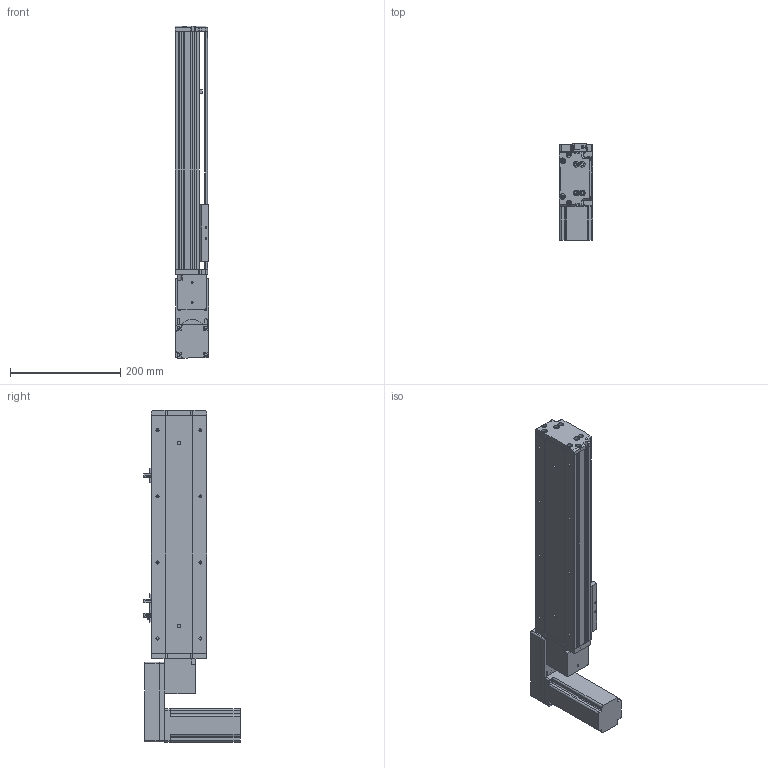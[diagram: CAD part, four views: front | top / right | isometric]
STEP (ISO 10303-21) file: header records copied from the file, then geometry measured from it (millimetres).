
FILE_DESCRIPTION (( 'STEP AP214' ), '1' );
FILE_NAME ('KSD100B-S250-MLB-CM.STEP', '2019-11-04T07:32:08', ( '微软用户' ), ( '微软中国' ), 'SwSTEP 2.0', 'SolidWorks 2014', '' );
FILE_SCHEMA (( 'AUTOMOTIVE_DESIGN' ));
Length unit declared in the file: millimetre
Products named in the file (12): 悵誘欶奻狟殏; 100宽马达安装板连板上下折丝杆同步带; 台达ECMA－C20604AS伺服电机; U倰嫖萇EEㄜSX672; 覜茼え100遵圉猾敕; 100宽防尘板250行程-同步带; 100宽马达安装板同步带左; 100宽同步带安装板半封闭; 100宽马达安装板同步带; 100遵傷啣肮祭湍; 100宽底板半封闭同步带250行程; KSD100B-S250-MLB-CM
Assembly tree (13 placements, depth 2):
  KSD100B-S250-MLB-CM
    100宽底板半封闭同步带250行程
    100遵傷啣肮祭湍
    100宽马达安装板同步带
    100宽同步带安装板半封闭
    100宽马达安装板同步带左
    100宽防尘板250行程-同步带
    覜茼え100遵圉猾敕
    U倰嫖萇EEㄜSX672  x3
    台达ECMA－C20604AS伺服电机
    100宽马达安装板连板上下折丝杆同步带
    悵誘欶奻狟殏
Bounding box: 61 x 174.7 x 603 mm (x, y, z)
Volume: 1579998.8 mm3; surface area: 481255.1 mm2
Topology: 14 solids, 14 shells, 1257 faces, 3500 edges, 2257 vertices
Faces by surface type: cylinder 603, plane 567, cone 87
Entity records: 42793 total; most frequent: CARTESIAN_POINT 7514, DIRECTION 6012, ORIENTED_EDGE 5732, EDGE_CURVE 2866, AXIS2_PLACEMENT_3D 2173, VERTEX_POINT 1881, VECTOR 1666, LINE 1666
